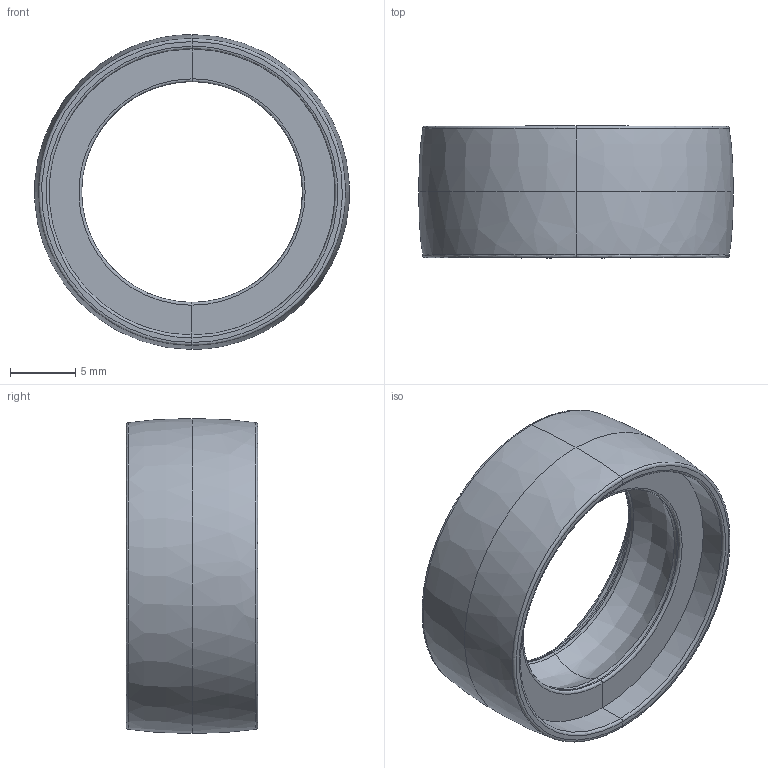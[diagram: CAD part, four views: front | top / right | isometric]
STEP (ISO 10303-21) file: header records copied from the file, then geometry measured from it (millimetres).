
FILE_DESCRIPTION(/* description */ ('Generated from Alias Stage'),/* implementation_level */ '2;1');
FILE_NAME(/* name */ 'couronne',/* time_stamp */ '2016-02-22T23:10:13+01:00',/* author */ (''),/* organization */ ('Autodesk Alias'),/* preprocessor_version */ 'ST-DEVELOPER v11',/* originating_system */ 'Autodesk OpenModel 2015',/* authorisation */ '');
FILE_SCHEMA (('AUTOMOTIVE_DESIGN { 1 2 10303 214 1 1 1 1 }'));
Length unit declared in the file: millimetre
Products named in the file (1): couronne
Bounding box: 24.01 x 10.05 x 24.05 mm (x, y, z)
Volume: 1454 mm3; surface area: 1777.2 mm2
Topology: 1 solids, 1 shells, 38 faces, 76 edges, 38 vertices
Faces by surface type: bspline 38
Entity records: 10945 total; most frequent: CARTESIAN_POINT 10533, ORIENTED_EDGE 152, EDGE_CURVE 76, VERTEX_POINT 44, EDGE_LOOP 38, FACE_OUTER_BOUND 38, ADVANCED_FACE 38, DIRECTION 2
